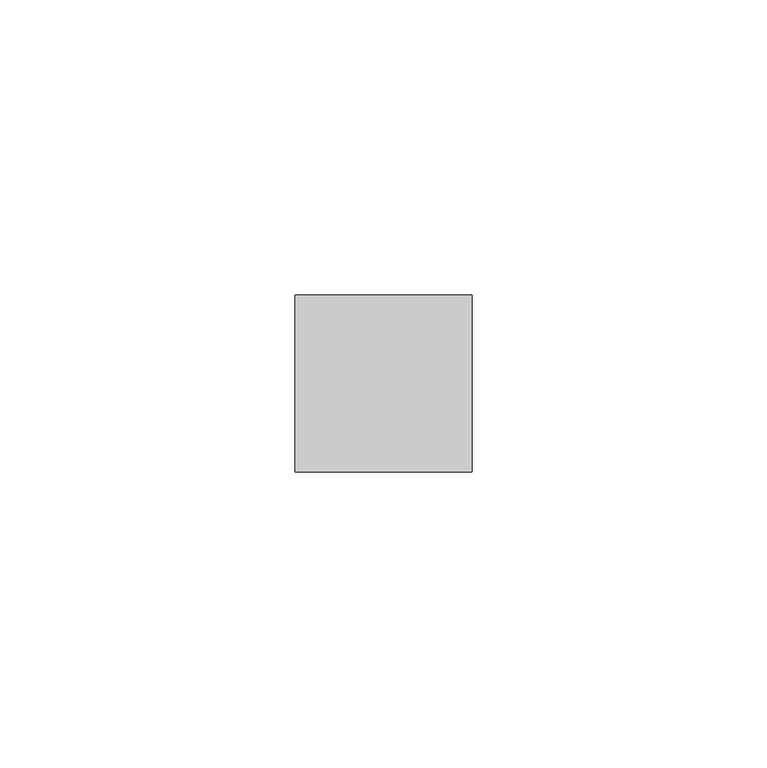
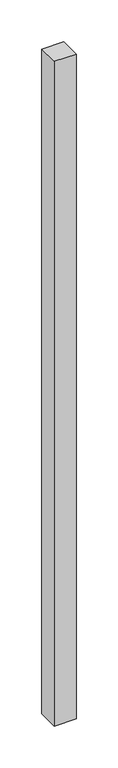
"""IFC4 building model written with IfcOpenShell, lengths in millimetres: member geometry, 矩形竖梃 : 30mm 正方形."""

import ifcopenshell
import ifcopenshell.guid

model = None  # the IFC model being written
_history = None  # IfcOwnerHistory: only IFC2X3 demands one
_inside = {}  # id of a spatial element -> (the spatial element, [elements in it])
_under = {}  # id of a project, library or spatial element -> (it, [spatial elements below it])
_declared = {}  # id of a project -> (the project, [libraries it declares])
_typed = {}  # id of a type object -> (the type object, [elements of that type])
_made_of = {}  # id of a material, layer set ... -> (it, [elements and type objects made of it])


def new_model(schema):
    """Start an empty IFC model of exactly this schema.

    Asked for "IFC4X3", IfcOpenShell would pick the latest addendum, in which some entities
    have other attributes; the version numbers below select the first issue.
    IFC2X3 requires an IfcOwnerHistory on every rooted entity: one is made here for all.
    """
    global model, _history
    if schema == "IFC4X3":
        model = ifcopenshell.file(schema_version=(4, 3, 0, 0))
    else:
        model = ifcopenshell.file(schema=schema)
    _inside.clear()
    _under.clear()
    _declared.clear()
    _typed.clear()
    _made_of.clear()
    _history = None
    if model.schema == "IFC2X3":
        org = make("IfcOrganization", Name="unknown")
        user = make(
            "IfcPersonAndOrganization",
            ThePerson=make("IfcPerson", FamilyName="unknown"),
            TheOrganization=org,
        )
        app = make(
            "IfcApplication",
            ApplicationDeveloper=org,
            Version="unknown",
            ApplicationFullName="unknown",
            ApplicationIdentifier="unknown",
        )
        _history = make(
            "IfcOwnerHistory",
            OwningUser=user,
            OwningApplication=app,
            ChangeAction="ADDED",
            CreationDate=0,
        )
    return model


def make(cls, **values):
    """One entity of the class cls with the attributes given. An attribute that is None is left unset."""
    return model.create_entity(
        cls, **{name: value for name, value in values.items() if value is not None}
    )


def rooted(cls, **values):
    """An entity with a GlobalId (a new one), such as an element, a storey or a relation."""
    return make(cls, GlobalId=ifcopenshell.guid.new(), OwnerHistory=_history, **values)


def si_unit(unit_type, name, prefix=None):
    """IfcSIUnit, for example si_unit("LENGTHUNIT", "METRE", prefix="MILLI")."""
    return make("IfcSIUnit", UnitType=unit_type, Prefix=prefix, Name=name)


def assignment(units):
    """IfcUnitAssignment: the units of a project."""
    return None if units is None else make("IfcUnitAssignment", Units=units)


def point(xyz):
    """IfcCartesianPoint."""
    return None if xyz is None else make("IfcCartesianPoint", Coordinates=xyz)


def direction(xyz):
    """IfcDirection."""
    return None if xyz is None else make("IfcDirection", DirectionRatios=xyz)


def frame(location, z_axis=None, x_axis=None):
    """IfcAxis2Placement3D, a coordinate frame: its origin and axes. An axis left out is left unset."""
    return make(
        "IfcAxis2Placement3D",
        Location=point(location),
        Axis=direction(z_axis),
        RefDirection=direction(x_axis),
    )


def origin():
    """The frame at (0, 0, 0) with its axes left unset."""
    return frame((0.0, 0.0, 0.0))


def place(relative_to, where):
    """IfcLocalPlacement: puts the frame where relative to a parent placement (None: the world)."""
    return make(
        "IfcLocalPlacement", PlacementRelTo=relative_to, RelativePlacement=where
    )


def context(
    kind, dimensions, precision=None, world=None, true_north=None, identifier=None
):
    """IfcGeometricRepresentationContext, for example the 3D "Model" context."""
    return make(
        "IfcGeometricRepresentationContext",
        ContextIdentifier=identifier,
        ContextType=kind,
        CoordinateSpaceDimension=dimensions,
        Precision=precision,
        WorldCoordinateSystem=world,
        TrueNorth=true_north,
    )


def project(units=None, contexts=None):
    """IfcProject with its units and contexts."""
    return rooted(
        "IfcProject",
        Name="project",
        RepresentationContexts=contexts,
        UnitsInContext=assignment(units),
    )


def spatial(cls, under=None, at=None, **own):
    """A site, building, storey or space (cls), placed at a placement, below another one or the project."""
    s = rooted(cls, ObjectPlacement=at, **own)
    if under is not None:
        _under.setdefault(under.id(), (under, []))[1].append(s)
    return s


def polyline(points):
    """IfcPolyline through the points."""
    return make("IfcPolyline", Points=[point(p) for p in points])


def outline(outer, holes=None, kind="AREA"):
    """IfcArbitraryClosedProfileDef: a profile drawn as a closed curve; with holes, ...WithVoids."""
    if holes is None:
        return make("IfcArbitraryClosedProfileDef", ProfileType=kind, OuterCurve=outer)
    return make(
        "IfcArbitraryProfileDefWithVoids",
        ProfileType=kind,
        OuterCurve=outer,
        InnerCurves=holes,
    )


def extrude(swept, where, along, depth):
    """IfcExtrudedAreaSolid: the profile swept, set in the frame where, extruded along a direction by depth."""
    return make(
        "IfcExtrudedAreaSolid",
        SweptArea=swept,
        Position=where,
        ExtrudedDirection=direction(along),
        Depth=depth,
    )


def shape(context_of_items, identifier, shape_type, items):
    """IfcShapeRepresentation: the items that make up one representation, for example the "Body"."""
    return make(
        "IfcShapeRepresentation",
        ContextOfItems=context_of_items,
        RepresentationIdentifier=identifier,
        RepresentationType=shape_type,
        Items=items,
    )


def source(mapping_origin, context_of_items, identifier, shape_type, items):
    """IfcRepresentationMap: a shape defined once, which mapped items show again and again."""
    return make(
        "IfcRepresentationMap",
        MappingOrigin=mapping_origin,
        MappedRepresentation=shape(context_of_items, identifier, shape_type, items),
    )


def transform(
    local_origin,
    x_axis=None,
    y_axis=None,
    z_axis=None,
    scale=None,
    scale2=None,
    scale3=None,
    uniform=True,
):
    """IfcCartesianTransformationOperator3D, or its non-uniform kind. x_axis, y_axis, z_axis: its Axis1, 2, 3."""
    if uniform:
        return make(
            "IfcCartesianTransformationOperator3D",
            Axis1=direction(x_axis),
            Axis2=direction(y_axis),
            LocalOrigin=point(local_origin),
            Scale=scale,
            Axis3=direction(z_axis),
        )
    return make(
        "IfcCartesianTransformationOperator3DnonUniform",
        Axis1=direction(x_axis),
        Axis2=direction(y_axis),
        LocalOrigin=point(local_origin),
        Scale=scale,
        Axis3=direction(z_axis),
        Scale2=scale2,
        Scale3=scale3,
    )


def mapped(mapping_source, mapping_target):
    """IfcMappedItem: shows the shape of a source again, moved by a transform."""
    return make(
        "IfcMappedItem", MappingSource=mapping_source, MappingTarget=mapping_target
    )


def made_of(thing, what):
    """Note that an element or type object is made of a material, layer set ...; save() writes the relation."""
    if what is not None:
        _made_of.setdefault(what.id(), (what, []))[1].append(thing)
    return thing


def element(
    cls,
    number,
    at=None,
    inside=None,
    cuts=None,
    type_object=None,
    material=None,
    context=None,
    identifier="Body",
    shape_type=None,
    held_by="IfcProductDefinitionShape",
    body=None,
    shapes=None,
    **own,
):
    """One element of the class cls, such as IfcWall. Its Tag is "e" and its number.

    at: its placement. inside: the storey or other place that contains it. cuts: it is an
    opening in that element (IfcRelVoidsElement). A single representation is given by context,
    identifier, shape_type and body (its items); several are given by shapes. held_by: the class
    of the entity that holds the representations. save() writes the other relations.
    """
    e = rooted(cls, Tag="e%d" % number, ObjectPlacement=at, **own)
    if body is not None:
        shapes = [shape(context, identifier, shape_type, body)]
    if shapes is not None:
        e.Representation = make(held_by, Representations=shapes)
    if inside is not None:
        _inside.setdefault(inside.id(), (inside, []))[1].append(e)
    if cuts is not None:
        rooted(
            "IfcRelVoidsElement", RelatingBuildingElement=cuts, RelatedOpeningElement=e
        )
    if type_object is not None:
        _typed.setdefault(type_object.id(), (type_object, []))[1].append(e)
    return made_of(e, material)


def aggregate(whole, parts):
    """IfcRelAggregates: a whole, such as a stair, and the parts it consists of."""
    return rooted("IfcRelAggregates", RelatingObject=whole, RelatedObjects=parts)


def save(model, path):
    """Write the relations noted so far, then the file.

    IfcRelAggregates (storeys below a building ...), IfcRelContainedInSpatialStructure (elements
    in a storey), IfcRelDefinesByType, IfcRelAssociatesMaterial and IfcRelDeclares: one each for
    every whole, place, type object, material and project.
    """
    for whole, parts in _under.values():
        aggregate(whole, parts)
    for where, things in _inside.values():
        rooted(
            "IfcRelContainedInSpatialStructure",
            RelatedElements=things,
            RelatingStructure=where,
        )
    for kind, things in _typed.values():
        rooted("IfcRelDefinesByType", RelatedObjects=things, RelatingType=kind)
    for what, things in _made_of.values():
        rooted("IfcRelAssociatesMaterial", RelatedObjects=things, RelatingMaterial=what)
    for by, libraries in _declared.values():
        rooted("IfcRelDeclares", RelatingContext=by, RelatedDefinitions=libraries)
    model.write(path)


def member_caf78da9(model_context):
    return source(origin(), model_context, "Body", "SweptSolid", [
        extrude(outline(polyline([(0.0, 15.0), (0.0, -15.0), (-30.0, -15.0), (-30.0, 15.0), (0.0, 15.0)])), frame((0.0, 0.0, -970.0), z_axis=(0.0, 0.0, 1.0), x_axis=(1.0, 0.0, 0.0)), (0.0, 0.0, 1.0), 970.0),
    ])


if __name__ == "__main__":
    model = new_model("IFC4")
    model_context = context("Model", 3, world=origin())
    ifc_project = project(units=[si_unit("LENGTHUNIT", "METRE", prefix="MILLI")], contexts=[model_context])
    site = spatial("IfcSite", under=ifc_project)
    building = spatial("IfcBuilding", under=site)
    placement = place(None, origin())
    member_shape = member_caf78da9(model_context)
    element("IfcMember", 1, ObjectType="矩形竖梃 : 30mm 正方形", at=placement, inside=building, context=model_context, shape_type="MappedRepresentation", body=[
        mapped(member_shape, transform((0.0, 0.0, 0.0), x_axis=(1.0, 0.0, 0.0), y_axis=(0.0, 1.0, 0.0), z_axis=(0.0, 0.0, 1.0))),
    ])
    save(model, "model.ifc")
